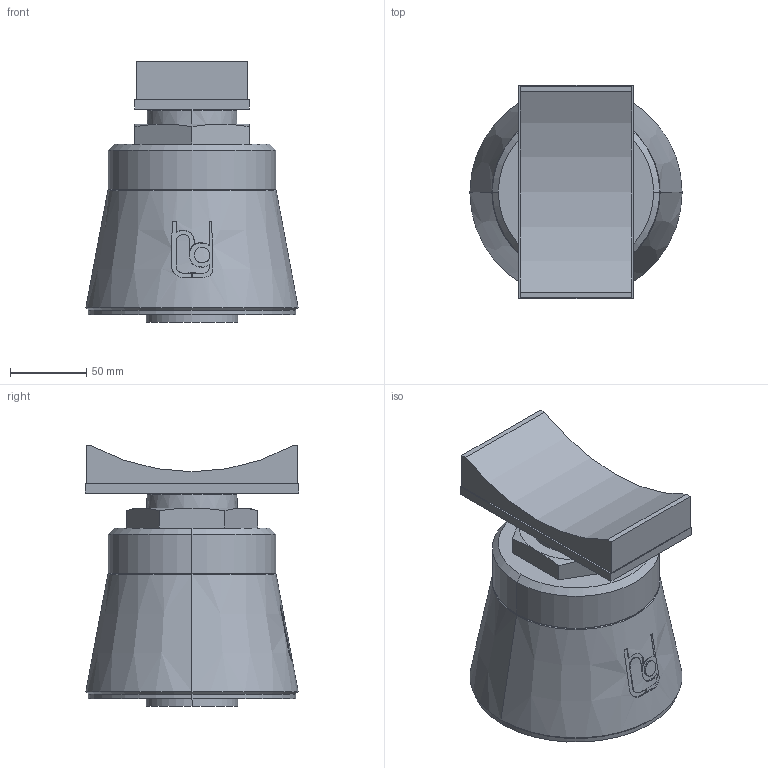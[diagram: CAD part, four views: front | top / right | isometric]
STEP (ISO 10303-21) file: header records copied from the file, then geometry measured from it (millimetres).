
FILE_DESCRIPTION(('STEP AP214'),'1');
FILE_NAME('RSRFS2_DN250.stp','2018-07-02T06:11:04',(' '),(' '),'Spatial InterOp 3D',' ',' ');
FILE_SCHEMA(('automotive_design'));
Length unit declared in the file: millimetre
Products named in the file (6): 1; 2; 3; 4; 5; 6
Bounding box: 139.44 x 140 x 171 mm (x, y, z)
Volume: 1945624.2 mm3; surface area: 204536.6 mm2
Topology: 6 solids, 6 shells, 127 faces, 313 edges, 202 vertices
Faces by surface type: plane 59, cylinder 37, cone 27, torus 4
Entity records: 5434 total; most frequent: CARTESIAN_POINT 1283, DIRECTION 639, ORIENTED_EDGE 626, EDGE_CURVE 313, AXIS2_PLACEMENT_3D 242, VERTEX_POINT 202, LINE 155, VECTOR 155
